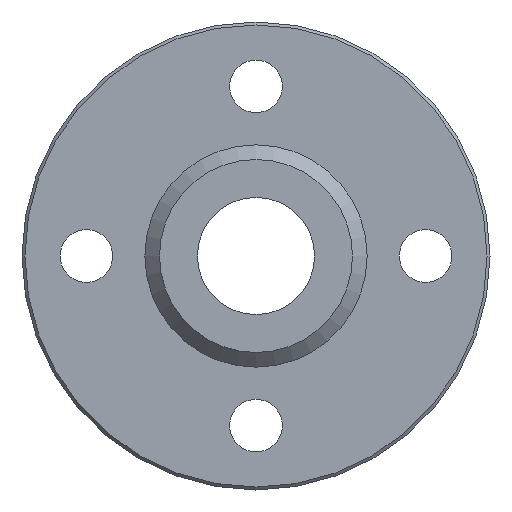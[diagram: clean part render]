
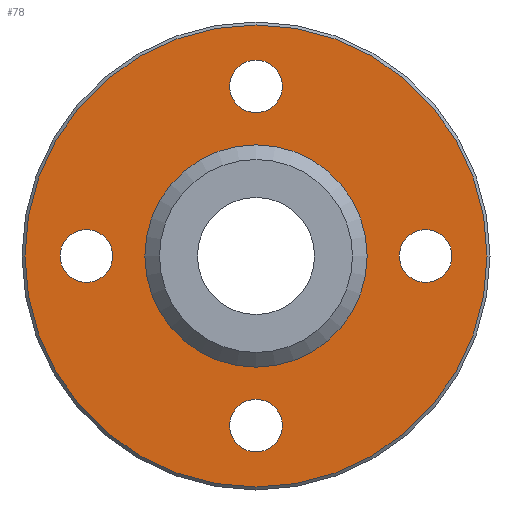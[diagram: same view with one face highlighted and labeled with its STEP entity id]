
A CAD part, left-side view. The second image highlights one B-rep face of the part: STEP entity #78.
In plain terms, the highlighted planar face has unit normal (-1, 0, 0).
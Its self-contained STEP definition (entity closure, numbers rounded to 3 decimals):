
#78=ADVANCED_FACE('',(#109,#110,#111,#112,#113,#114),#115,.F.);
#109=FACE_OUTER_BOUND('',#189,.T.);
#110=FACE_BOUND('',#190,.T.);
#111=FACE_BOUND('',#191,.T.);
#112=FACE_BOUND('',#192,.T.);
#113=FACE_BOUND('',#193,.T.);
#114=FACE_BOUND('',#194,.T.);
#115=PLANE('',#195);
#189=EDGE_LOOP('',(#275));
#190=EDGE_LOOP('',(#276));
#191=EDGE_LOOP('',(#277));
#192=EDGE_LOOP('',(#278));
#193=EDGE_LOOP('',(#279));
#194=EDGE_LOOP('',(#280));
#195=AXIS2_PLACEMENT_3D('',#281,#282,#283);
#275=ORIENTED_EDGE('',*,*,#392,.T.);
#276=ORIENTED_EDGE('',*,*,#393,.T.);
#277=ORIENTED_EDGE('',*,*,#394,.T.);
#278=ORIENTED_EDGE('',*,*,#395,.T.);
#279=ORIENTED_EDGE('',*,*,#391,.T.);
#280=ORIENTED_EDGE('',*,*,#396,.T.);
#281=CARTESIAN_POINT('',(-9.0,19.746,0.0));
#282=DIRECTION('',(1.0,0.0,0.0));
#283=DIRECTION('',(0.0,0.0,-1.0));
#391=EDGE_CURVE('',#422,#422,#423,.T.);
#392=EDGE_CURVE('',#424,#424,#425,.T.);
#393=EDGE_CURVE('',#426,#426,#427,.T.);
#394=EDGE_CURVE('',#428,#428,#429,.T.);
#395=EDGE_CURVE('',#430,#430,#431,.T.);
#396=EDGE_CURVE('',#432,#432,#433,.T.);
#422=VERTEX_POINT('',#478);
#423=CIRCLE('',#479,2.25);
#424=VERTEX_POINT('',#480);
#425=CIRCLE('',#481,19.746);
#426=VERTEX_POINT('',#482);
#427=CIRCLE('',#483,2.25);
#428=VERTEX_POINT('',#484);
#429=CIRCLE('',#485,2.25);
#430=VERTEX_POINT('',#486);
#431=CIRCLE('',#487,2.25);
#432=VERTEX_POINT('',#488);
#433=CIRCLE('',#489,9.5);
#478=CARTESIAN_POINT('',(-9.0,14.5,-2.25));
#479=AXIS2_PLACEMENT_3D('',#537,#538,#539);
#480=CARTESIAN_POINT('',(-9.0,0.0,19.746));
#481=AXIS2_PLACEMENT_3D('',#540,#541,#542);
#482=CARTESIAN_POINT('',(-9.0,0.0,12.25));
#483=AXIS2_PLACEMENT_3D('',#543,#544,#545);
#484=CARTESIAN_POINT('',(-9.0,-14.5,-2.25));
#485=AXIS2_PLACEMENT_3D('',#546,#547,#548);
#486=CARTESIAN_POINT('',(-9.0,0.0,-16.75));
#487=AXIS2_PLACEMENT_3D('',#549,#550,#551);
#488=CARTESIAN_POINT('',(-9.0,0.0,-9.5));
#489=AXIS2_PLACEMENT_3D('',#552,#553,#554);
#537=CARTESIAN_POINT('',(-9.0,14.5,0.0));
#538=DIRECTION('',(1.0,0.0,0.0));
#539=DIRECTION('',(0.0,0.0,-1.0));
#540=CARTESIAN_POINT('',(-9.0,0.0,0.0));
#541=DIRECTION('',(-1.0,0.0,0.0));
#542=DIRECTION('',(0.0,0.0,1.0));
#543=CARTESIAN_POINT('',(-9.0,0.0,14.5));
#544=DIRECTION('',(1.0,0.0,0.0));
#545=DIRECTION('',(0.0,0.0,-1.0));
#546=CARTESIAN_POINT('',(-9.0,-14.5,0.0));
#547=DIRECTION('',(1.0,0.0,0.0));
#548=DIRECTION('',(0.0,0.0,-1.0));
#549=CARTESIAN_POINT('',(-9.0,0.0,-14.5));
#550=DIRECTION('',(1.0,0.0,0.0));
#551=DIRECTION('',(0.0,0.0,-1.0));
#552=CARTESIAN_POINT('',(-9.0,0.0,0.0));
#553=DIRECTION('',(1.0,0.0,0.0));
#554=DIRECTION('',(0.0,0.0,-1.0));
